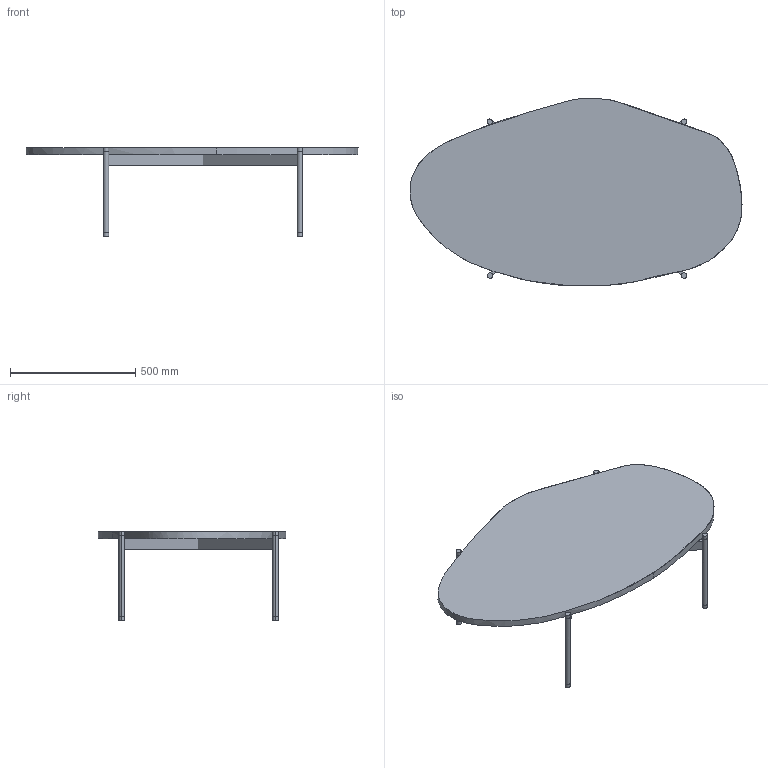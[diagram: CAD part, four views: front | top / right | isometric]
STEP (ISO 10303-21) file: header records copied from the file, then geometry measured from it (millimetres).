
FILE_DESCRIPTION(/* description */ (''),/* implementation_level */ '2;1');
FILE_NAME(/* name */ 'La Terre_L_Agnes Morguet',/* time_stamp */ '2021-02-22T14:18:27+01:00',/* author */ (''),/* organization */ (''),/* preprocessor_version */ 'ST-DEVELOPER v15',/* originating_system */ '',/* authorisation */ '');
FILE_SCHEMA (('AUTOMOTIVE_DESIGN'));
Length unit declared in the file: millimetre
Products named in the file (1): Document
Bounding box: 1323.34 x 748.43 x 352 mm (x, y, z)
Volume: 20255524.7 mm3; surface area: 2830468.5 mm2
Topology: 1 solids, 38 shells, 49 faces, 119 edges, 101 vertices
Faces by surface type: bspline 49
Entity records: 3481 total; most frequent: CARTESIAN_POINT 1913, B_SPLINE_CURVE_WITH_KNOTS 180, ORIENTED_EDGE 141, PCURVE 141, DEFINITIONAL_REPRESENTATION 141, SURFACE_CURVE 119, EDGE_CURVE 119, VERTEX_POINT 101
